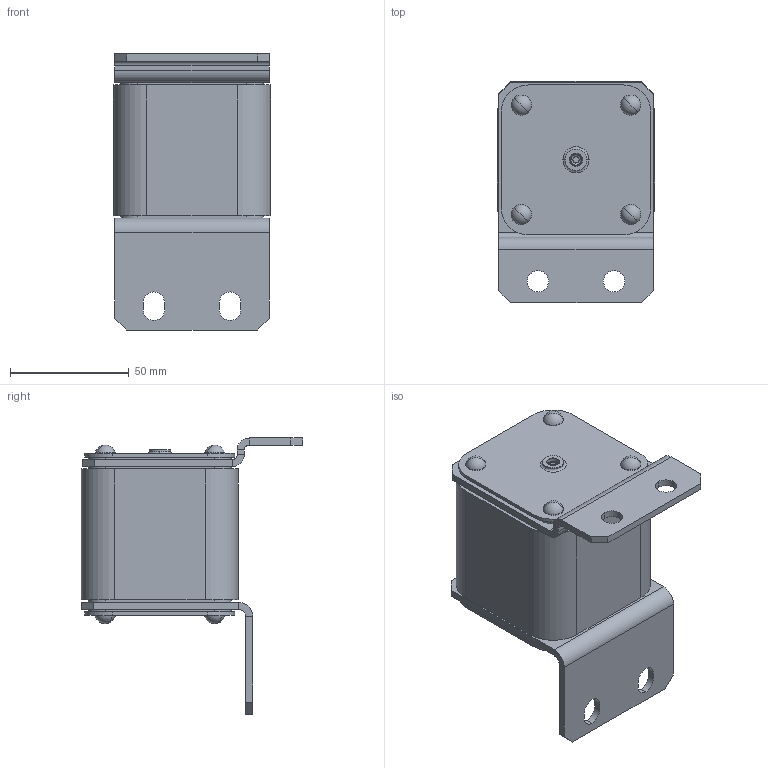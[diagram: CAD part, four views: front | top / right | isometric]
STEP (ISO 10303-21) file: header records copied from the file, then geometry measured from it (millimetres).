
FILE_DESCRIPTION (( 'STEP AP214' ), '1' );
FILE_NAME ('ﾏﾏ60ﾑ-40ﾊ0-710ﾀ-ﾓﾕﾋ3-ﾊﾝﾀﾇ.STEP', '2023-04-28T13:13:32', ( '' ), ( '' ), 'SwSTEP 2.0', 'SolidWorks 2018', '' );
FILE_SCHEMA (( 'AUTOMOTIVE_DESIGN' ));
Length unit declared in the file: millimetre
Products named in the file (1): ﾏﾏ60ﾑ-40ﾊ0-710ﾀ-ﾓﾕﾋ3-ﾊﾝﾀﾇ
Bounding box: 66 x 93 x 116 mm (x, y, z)
Volume: 284801.7 mm3; surface area: 51310.6 mm2
Topology: 1 solids, 11 shells, 345 faces, 768 edges, 480 vertices
Faces by surface type: plane 175, cylinder 122, torus 28, sphere 16, cone 4
Entity records: 13423 total; most frequent: DIRECTION 1844, CARTESIAN_POINT 1594, ORIENTED_EDGE 1536, EDGE_CURVE 768, AXIS2_PLACEMENT_3D 730, VERTEX_POINT 480, EDGE_LOOP 388, LINE 384
